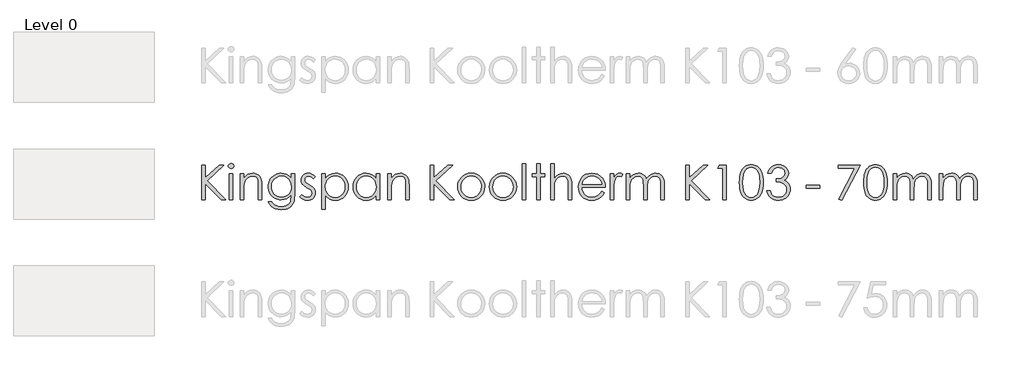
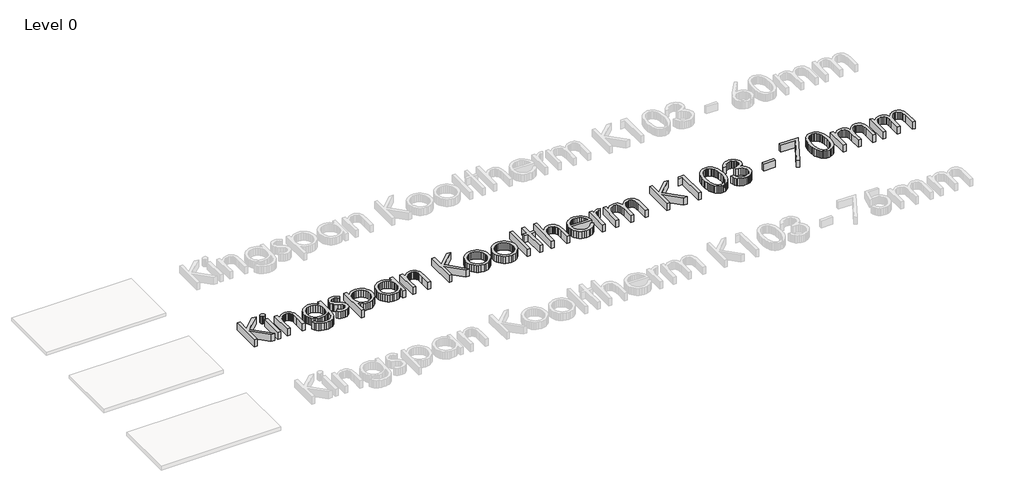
# One storey, part 9 of 13: 1 proxy.
"""IFC4 building model written with IfcOpenShell, lengths in millimetres."""

import ifcopenshell
import ifcopenshell.guid

model = None  # the IFC model being written
_history = None  # IfcOwnerHistory: only IFC2X3 demands one
_inside = {}  # id of a spatial element -> (the spatial element, [elements in it])
_under = {}  # id of a project, library or spatial element -> (it, [spatial elements below it])
_declared = {}  # id of a project -> (the project, [libraries it declares])
_typed = {}  # id of a type object -> (the type object, [elements of that type])
_made_of = {}  # id of a material, layer set ... -> (it, [elements and type objects made of it])


def new_model(schema):
    """Start an empty IFC model of exactly this schema.

    Asked for "IFC4X3", IfcOpenShell would pick the latest addendum, in which some entities
    have other attributes; the version numbers below select the first issue.
    IFC2X3 requires an IfcOwnerHistory on every rooted entity: one is made here for all.
    """
    global model, _history
    if schema == "IFC4X3":
        model = ifcopenshell.file(schema_version=(4, 3, 0, 0))
    else:
        model = ifcopenshell.file(schema=schema)
    _inside.clear()
    _under.clear()
    _declared.clear()
    _typed.clear()
    _made_of.clear()
    _history = None
    if model.schema == "IFC2X3":
        org = make("IfcOrganization", Name="unknown")
        user = make(
            "IfcPersonAndOrganization",
            ThePerson=make("IfcPerson", FamilyName="unknown"),
            TheOrganization=org,
        )
        app = make(
            "IfcApplication",
            ApplicationDeveloper=org,
            Version="unknown",
            ApplicationFullName="unknown",
            ApplicationIdentifier="unknown",
        )
        _history = make(
            "IfcOwnerHistory",
            OwningUser=user,
            OwningApplication=app,
            ChangeAction="ADDED",
            CreationDate=0,
        )
    return model


def make(cls, **values):
    """One entity of the class cls with the attributes given. An attribute that is None is left unset."""
    return model.create_entity(
        cls, **{name: value for name, value in values.items() if value is not None}
    )


def rooted(cls, **values):
    """An entity with a GlobalId (a new one), such as an element, a storey or a relation."""
    return make(cls, GlobalId=ifcopenshell.guid.new(), OwnerHistory=_history, **values)


def si_unit(unit_type, name, prefix=None):
    """IfcSIUnit, for example si_unit("LENGTHUNIT", "METRE", prefix="MILLI")."""
    return make("IfcSIUnit", UnitType=unit_type, Prefix=prefix, Name=name)


def assignment(units):
    """IfcUnitAssignment: the units of a project."""
    return None if units is None else make("IfcUnitAssignment", Units=units)


def point(xyz):
    """IfcCartesianPoint."""
    return None if xyz is None else make("IfcCartesianPoint", Coordinates=xyz)


def direction(xyz):
    """IfcDirection."""
    return None if xyz is None else make("IfcDirection", DirectionRatios=xyz)


def frame(location, z_axis=None, x_axis=None):
    """IfcAxis2Placement3D, a coordinate frame: its origin and axes. An axis left out is left unset."""
    return make(
        "IfcAxis2Placement3D",
        Location=point(location),
        Axis=direction(z_axis),
        RefDirection=direction(x_axis),
    )


def origin():
    """The frame at (0, 0, 0) with its axes left unset."""
    return frame((0.0, 0.0, 0.0))


def origin_with_axes():
    """The frame at (0, 0, 0) with the z axis (0, 0, 1) and the x axis (1, 0, 0) written out."""
    return frame((0.0, 0.0, 0.0), z_axis=(0.0, 0.0, 1.0), x_axis=(1.0, 0.0, 0.0))


def place(relative_to, where):
    """IfcLocalPlacement: puts the frame where relative to a parent placement (None: the world)."""
    return make(
        "IfcLocalPlacement", PlacementRelTo=relative_to, RelativePlacement=where
    )


def context(
    kind, dimensions, precision=None, world=None, true_north=None, identifier=None
):
    """IfcGeometricRepresentationContext, for example the 3D "Model" context."""
    return make(
        "IfcGeometricRepresentationContext",
        ContextIdentifier=identifier,
        ContextType=kind,
        CoordinateSpaceDimension=dimensions,
        Precision=precision,
        WorldCoordinateSystem=world,
        TrueNorth=true_north,
    )


def project(units=None, contexts=None):
    """IfcProject with its units and contexts."""
    return rooted(
        "IfcProject",
        Name="project",
        RepresentationContexts=contexts,
        UnitsInContext=assignment(units),
    )


def spatial(cls, under=None, at=None, **own):
    """A site, building, storey or space (cls), placed at a placement, below another one or the project."""
    s = rooted(cls, ObjectPlacement=at, **own)
    if under is not None:
        _under.setdefault(under.id(), (under, []))[1].append(s)
    return s


def polyline(points):
    """IfcPolyline through the points."""
    return make("IfcPolyline", Points=[point(p) for p in points])


def outline(outer, holes=None, kind="AREA"):
    """IfcArbitraryClosedProfileDef: a profile drawn as a closed curve; with holes, ...WithVoids."""
    if holes is None:
        return make("IfcArbitraryClosedProfileDef", ProfileType=kind, OuterCurve=outer)
    return make(
        "IfcArbitraryProfileDefWithVoids",
        ProfileType=kind,
        OuterCurve=outer,
        InnerCurves=holes,
    )


def extrude(swept, where, along, depth):
    """IfcExtrudedAreaSolid: the profile swept, set in the frame where, extruded along a direction by depth."""
    return make(
        "IfcExtrudedAreaSolid",
        SweptArea=swept,
        Position=where,
        ExtrudedDirection=direction(along),
        Depth=depth,
    )


def shape(context_of_items, identifier, shape_type, items):
    """IfcShapeRepresentation: the items that make up one representation, for example the "Body"."""
    return make(
        "IfcShapeRepresentation",
        ContextOfItems=context_of_items,
        RepresentationIdentifier=identifier,
        RepresentationType=shape_type,
        Items=items,
    )


def made_of(thing, what):
    """Note that an element or type object is made of a material, layer set ...; save() writes the relation."""
    if what is not None:
        _made_of.setdefault(what.id(), (what, []))[1].append(thing)
    return thing


def element(
    cls,
    number,
    at=None,
    inside=None,
    cuts=None,
    type_object=None,
    material=None,
    context=None,
    identifier="Body",
    shape_type=None,
    held_by="IfcProductDefinitionShape",
    body=None,
    shapes=None,
    **own,
):
    """One element of the class cls, such as IfcWall. Its Tag is "e" and its number.

    at: its placement. inside: the storey or other place that contains it. cuts: it is an
    opening in that element (IfcRelVoidsElement). A single representation is given by context,
    identifier, shape_type and body (its items); several are given by shapes. held_by: the class
    of the entity that holds the representations. save() writes the other relations.
    """
    e = rooted(cls, Tag="e%d" % number, ObjectPlacement=at, **own)
    if body is not None:
        shapes = [shape(context, identifier, shape_type, body)]
    if shapes is not None:
        e.Representation = make(held_by, Representations=shapes)
    if inside is not None:
        _inside.setdefault(inside.id(), (inside, []))[1].append(e)
    if cuts is not None:
        rooted(
            "IfcRelVoidsElement", RelatingBuildingElement=cuts, RelatedOpeningElement=e
        )
    if type_object is not None:
        _typed.setdefault(type_object.id(), (type_object, []))[1].append(e)
    return made_of(e, material)


def aggregate(whole, parts):
    """IfcRelAggregates: a whole, such as a stair, and the parts it consists of."""
    return rooted("IfcRelAggregates", RelatingObject=whole, RelatedObjects=parts)


def save(model, path):
    """Write the relations noted so far, then the file.

    IfcRelAggregates (storeys below a building ...), IfcRelContainedInSpatialStructure (elements
    in a storey), IfcRelDefinesByType, IfcRelAssociatesMaterial and IfcRelDeclares: one each for
    every whole, place, type object, material and project.
    """
    for whole, parts in _under.values():
        aggregate(whole, parts)
    for where, things in _inside.values():
        rooted(
            "IfcRelContainedInSpatialStructure",
            RelatedElements=things,
            RelatingStructure=where,
        )
    for kind, things in _typed.values():
        rooted("IfcRelDefinesByType", RelatedObjects=things, RelatingType=kind)
    for what, things in _made_of.values():
        rooted("IfcRelAssociatesMaterial", RelatedObjects=things, RelatingMaterial=what)
    for by, libraries in _declared.values():
        rooted("IfcRelDeclares", RelatingContext=by, RelatedDefinitions=libraries)
    model.write(path)


model = new_model("IFC4")

# Units and contexts
model_context = context("Model", 3, world=origin())
ifc_project = project(units=[si_unit("LENGTHUNIT", "METRE", prefix="MILLI")], contexts=[model_context])

# Site, building, storey
site = spatial("IfcSite", under=ifc_project)
building = spatial("IfcBuilding", under=site)
storey = spatial("IfcBuildingStorey", under=building, Name="Level 0", Elevation=0.0)

# Proxy
placement = place(None, origin())
element("IfcBuildingElementProxy", 1, Name="600mm KI_CenturyGothic", ObjectType="600mm KI_CenturyGothic", at=placement, inside=storey, context=model_context, shape_type="SweptSolid", body=[
    extrude(outline(polyline([(-3852.2663848, -2099.1034017), (-3792.944575, -2099.1034017), (-3792.944575, -2318.316027), (-3555.1938841, -2099.1034017), (-3471.6181051, -2099.1034017), (-3760.9664119, -2366.0515459), (-3441.9572002, -2692.3214999), (-3520.8984627, -2692.3214999), (-3792.944575, -2414.0960325), (-3792.944575, -2692.3214999), (-3852.2663848, -2692.3214999), (-3852.2663848, -2099.1034017)])), origin_with_axes(), (0.0, 0.0, 1.0), 150.0),
    extrude(outline(polyline([(-3348.1854852, -2069.4424967), (-3329.145347, -2072.7252792), (-3313.1176445, -2082.5736265), (-3302.226531, -2097.0178693), (-3298.5961598, -2114.088338), (-3302.226531, -2130.9270809), (-3313.1176445, -2145.2940817), (-3329.145347, -2155.142429), (-3348.1854852, -2158.4252115), (-3366.9938975, -2155.142429), (-3382.9443581, -2145.2940817), (-3393.8354717, -2130.9270809), (-3397.4658428, -2114.088338), (-3393.8354717, -2097.0178693), (-3382.9443581, -2082.5736265), (-3366.9938975, -2072.7252792), (-3348.1854852, -2069.4424967)])), origin_with_axes(), (0.0, 0.0, 1.0), 150.0),
    extrude(outline(polyline([(-3377.6919062, -2247.4079262), (-3318.3700964, -2247.4079262), (-3318.3700964, -2692.3214999), (-3377.6919062, -2692.3214999), (-3377.6919062, -2247.4079262)])), origin_with_axes(), (0.0, 0.0, 1.0), 150.0),
    extrude(outline(polyline([(-3189.8395084, -2247.4079262), (-3130.5176986, -2247.4079262), (-3130.5176986, -2326.5036726), (-3096.9946967, -2286.9944204), (-3060.0730495, -2259.303185), (-3019.7141359, -2242.9665147), (-2975.879335, -2237.5209579), (-2953.4357238, -2239.0995901), (-2932.2955704, -2243.8354865), (-2912.4588747, -2251.7286472), (-2893.9256368, -2262.7790723), (-2877.212412, -2276.5039994), (-2862.835756, -2292.4206667), (-2841.0921499, -2330.8292213), (-2833.6238199, -2355.2087086), (-2828.2892984, -2385.5551357), (-2824.0216812, -2464.1488095), (-2824.0216812, -2692.3214999), (-2883.343491, -2692.3214999), (-2883.343491, -2479.1337458), (-2883.343491, -2376.092998), (-2884.7290183, -2355.2956057), (-2889.8125035, -2337.2403023), (-2898.2849788, -2321.9270877), (-2910.1464442, -2309.355962), (-2924.7403432, -2299.5558909), (-2941.4101193, -2292.5558401), (-2980.977303, -2286.9557994), (-3005.3471351, -2289.1137461), (-3028.4038541, -2295.5875862), (-3050.1474602, -2306.3773197), (-3070.5779533, -2321.4829466), (-3088.6622225, -2339.7651482), (-3103.3671568, -2360.084606), (-3114.6927562, -2382.44132), (-3122.6390208, -2406.8352901), (-3128.5480292, -2453.9142525), (-3130.5176986, -2528.4141035), (-3130.5176986, -2692.3214999), (-3189.8395084, -2692.3214999), (-3189.8395084, -2247.4079262)])), origin_with_axes(), (0.0, 0.0, 1.0), 150.0),
    extrude(outline(polyline([(-2319.7862977, -2247.4079262), (-2260.4644879, -2247.4079262), (-2260.4644879, -2598.395301), (-2264.5196897, -2678.6496765), (-2269.588692, -2709.4499001), (-2276.6852953, -2734.0321474), (-2289.9371156, -2762.6454585), (-2307.2924139, -2787.7732271), (-2328.7511904, -2809.4154531), (-2354.3134448, -2827.5721366), (-2383.3226209, -2841.9343098), (-2415.122162, -2852.1930049), (-2449.7120682, -2858.348222), (-2487.0923395, -2860.3999611), (-2541.0458345, -2856.3833802), (-2589.206184, -2844.3336376), (-2630.260275, -2825.5059147), (-2662.8949946, -2801.1553932), (-2690.2000204, -2767.8061856), (-2715.2650299, -2721.9824048), (-2655.94322, -2721.9824048), (-2642.4355358, -2743.151524), (-2627.0933555, -2761.3951046), (-2609.9166791, -2776.7131468), (-2590.9055067, -2789.1056506), (-2569.7894914, -2798.6691682), (-2546.2982864, -2805.5002523), (-2492.1903075, -2810.9651195), (-2438.5071593, -2805.6354257), (-2415.083541, -2798.9733084), (-2393.93856, -2789.6463441), (-2359.6624492, -2765.6047903), (-2336.8567664, -2736.1176798), (-2329.3884364, -2717.4782342), (-2324.0539149, -2693.7697863), (-2319.7862977, -2631.1458835), (-2319.7862977, -2608.4367532), (-2354.757586, -2644.2190818), (-2396.6420279, -2670.6165148), (-2443.392712, -2686.8952536), (-2492.9627269, -2692.3214999), (-2522.4063889, -2690.4242447), (-2550.9521133, -2684.7324793), (-2578.5999001, -2675.2462036), (-2605.3497494, -2661.9654175), (-2630.1540674, -2645.4742634), (-2651.9652601, -2626.3568832), (-2670.7833277, -2604.6132772), (-2686.6082702, -2580.2434451), (-2699.1456025, -2553.9280817), (-2708.1008399, -2526.3478816), (-2713.4739824, -2497.5028447), (-2715.2650299, -2467.392971), (-2713.3967404, -2437.1044753), (-2707.7918722, -2407.8780563), (-2698.4504251, -2379.713714), (-2685.3723991, -2352.6114483), (-2668.9971079, -2327.4257483), (-2649.7638648, -2305.0111029), (-2627.67267, -2285.367512), (-2602.7235235, -2268.4949758), (-2575.9833294, -2254.943843), (-2548.5189922, -2245.2644624), (-2520.3305117, -2239.456834), (-2491.4178881, -2237.5209579), (-2444.5320306, -2242.4644421), (-2400.8903346, -2257.2948945), (-2359.6045177, -2283.8661218), (-2319.7862977, -2324.0319306), (-2319.7862977, -2247.4079262)]), holes=[polyline([(-2484.1571458, -2286.9557994), (-2529.0154023, -2292.9806707), (-2570.5908765, -2311.0552847), (-2606.2187212, -2339.7699758), (-2633.2340897, -2377.7150788), (-2650.2659375, -2421.9940208), (-2655.94322, -2469.7102292), (-2653.0080263, -2505.6229036), (-2644.2024452, -2538.2817613), (-2629.5264766, -2567.6868023), (-2608.9801206, -2593.8380266), (-2583.7606272, -2615.296803), (-2555.0652466, -2630.6245004), (-2522.8939786, -2639.8211189), (-2487.2468234, -2642.8866584), (-2451.3244937, -2639.845257), (-2419.1001219, -2630.7210528), (-2390.573708, -2615.5140459), (-2365.7452519, -2594.2242363), (-2345.6382095, -2567.9812872), (-2331.2760363, -2537.9148621), (-2322.6587323, -2504.024961), (-2319.7862977, -2466.3115838), (-2325.0773706, -2417.6105407), (-2340.9505892, -2374.3936754), (-2366.4983608, -2338.1672056), (-2400.8130926, -2310.4373492), (-2440.9982119, -2292.8261869), (-2484.1571458, -2286.9557994)])]), origin_with_axes(), (0.0, 0.0, 1.0), 150.0),
    extrude(outline(polyline([(-1904.5336289, -2298.6965743), (-1940.9918246, -2336.390641), (-1962.9575012, -2314.7628978), (-1984.6721416, -2299.3145098), (-2006.1357456, -2290.045477), (-2027.3483133, -2286.9557994), (-2052.181597, -2291.6289368), (-2073.2300256, -2305.6483489), (-2087.5970264, -2325.8857371), (-2092.3860267, -2349.212803), (-2088.4466878, -2370.7633042), (-2076.628671, -2391.2324183), (-2052.0657341, -2413.400855), (-2010.2006027, -2439.122421), (-1958.3326401, -2471.9888664), (-1939.8428507, -2487.8138088), (-1926.315856, -2503.2332311), (-1909.9791857, -2535.9065716), (-1904.5336289, -2572.4420092), (-1906.9474396, -2598.5884059), (-1914.1888714, -2622.6492701), (-1926.2579245, -2644.624602), (-1943.1545989, -2664.5144015), (-1963.6719892, -2681.0055557), (-1986.6031901, -2692.7849515), (-2011.9482016, -2699.852589), (-2039.7070237, -2702.2084682), (-2077.4397114, -2698.3270607), (-2113.3958344, -2686.6828383), (-2145.4512394, -2668.2027042), (-2171.4817731, -2643.8135617), (-2135.7959969, -2603.3387852), (-2114.0041146, -2624.9665283), (-2091.5749863, -2640.4149163), (-2068.5086121, -2649.6839491), (-2044.8049918, -2652.7736267), (-2013.637869, -2647.1349651), (-1987.4914724, -2630.2189802), (-1969.7644472, -2605.6560434), (-1963.8554388, -2577.0765256), (-1967.7561567, -2553.2860081), (-1979.4583106, -2532.2762005), (-2005.0253927, -2510.5712154), (-2050.2119275, -2483.7682622), (-2099.762632, -2453.1032121), (-2117.441381, -2437.9444814), (-2130.3890611, -2422.9016136), (-2146.3781427, -2390.7689666), (-2151.7078365, -2354.310771), (-2149.5305794, -2330.2643896), (-2142.9988078, -2308.3325063), (-2132.1125219, -2288.5151211), (-2116.8717217, -2270.812234), (-2098.309518, -2256.2473007), (-2077.4590218, -2245.8437769), (-2054.3202332, -2239.6016627), (-2028.8931521, -2237.5209579), (-1997.9481, -2241.3444339), (-1966.9064954, -2252.814862), (-1935.7683384, -2271.9322421), (-1904.5336289, -2298.6965743)])), origin_with_axes(), (0.0, 0.0, 1.0), 150.0),
    extrude(outline(polyline([(-1795.7769776, -2247.4079262), (-1736.4551678, -2247.4079262), (-1736.4551678, -2328.5119631), (-1700.9238754, -2288.2689124), (-1660.4490989, -2259.9211205), (-1614.9922173, -2243.1209986), (-1564.5146096, -2237.5209579), (-1520.0618732, -2241.7596094), (-1478.9305402, -2254.4755637), (-1441.1206107, -2275.668821), (-1406.6320845, -2305.3393811), (-1377.9077381, -2340.9768811), (-1357.3903478, -2380.070958), (-1345.0799137, -2422.6216116), (-1340.9764356, -2468.628842), (-1345.0412927, -2515.5291824), (-1357.235864, -2558.7508754), (-1377.5601494, -2598.293921), (-1406.014149, -2634.1583192), (-1440.2130179, -2663.9302594), (-1477.7719111, -2685.1959309), (-1518.6908288, -2697.9553339), (-1562.9697708, -2702.2084682), (-1612.6170277, -2696.743601), (-1658.0545988, -2680.3489992), (-1699.3211052, -2653.1019049), (-1736.4551678, -2615.07956), (-1736.4551678, -2850.5129928), (-1795.7769776, -2850.5129928), (-1795.7769776, -2247.4079262)]), holes=[polyline([(-1568.5311905, -2286.9557994), (-1602.5852307, -2290.2530647), (-1633.8392507, -2300.1448607), (-1662.2932503, -2316.6311872), (-1687.9472295, -2339.7120444), (-1709.1694525, -2367.6977647), (-1724.3281832, -2398.8986808), (-1733.4234216, -2433.3147926), (-1736.4551678, -2470.9461002), (-1731.048232, -2519.8016272), (-1714.8274246, -2563.4819442), (-1688.5265441, -2600.3263495), (-1652.8793888, -2628.6741414), (-1611.4390881, -2646.7487554), (-1567.7587711, -2652.7736267), (-1525.0632888, -2646.7101344), (-1485.0326535, -2628.5196576), (-1450.2544701, -2599.4187567), (-1423.3163435, -2560.6239924), (-1406.05277, -2515.9588407), (-1400.2982454, -2469.2467775), (-1405.9948385, -2422.3029886), (-1423.0846177, -2377.8695627), (-1449.8103289, -2339.5189395), (-1484.414718, -2310.8235589), (-1524.7157001, -2292.9227393), (-1568.5311905, -2286.9557994)])]), origin_with_axes(), (0.0, 0.0, 1.0), 150.0),
    extrude(outline(polyline([(-807.0801472, -2247.4079262), (-807.0801472, -2692.3214999), (-866.401957, -2692.3214999), (-866.401957, -2616.4699149), (-903.4780882, -2654.3184655), (-944.8797679, -2681.0441767), (-990.4525125, -2696.9173953), (-1040.0418379, -2702.2084682), (-1084.3159523, -2697.9553339), (-1125.2203871, -2685.1959309), (-1162.7551422, -2663.9302594), (-1196.9202178, -2634.1583192), (-1225.340424, -2598.293921), (-1245.6405713, -2558.7508754), (-1257.8206597, -2515.5291824), (-1261.8806892, -2468.628842), (-1257.7820388, -2422.6216116), (-1245.4860875, -2380.070958), (-1224.9928353, -2340.9768811), (-1196.3022822, -2305.3393811), (-1161.8475494, -2275.668821), (-1124.061758, -2254.4755637), (-1082.9449079, -2241.7596094), (-1038.4969991, -2237.5209579), (-987.7490446, -2243.1209986), (-942.0990581, -2259.9211205), (-921.2051134, -2272.6081091), (-901.6242816, -2288.2689124), (-866.401957, -2328.5119631), (-866.401957, -2247.4079262), (-807.0801472, -2247.4079262)]), holes=[polyline([(-1034.3259343, -2286.9557994), (-1078.1414247, -2292.9227393), (-1118.4424068, -2310.8235589), (-1153.0467959, -2339.5189395), (-1179.7725071, -2377.8695627), (-1196.8622863, -2422.3029886), (-1202.5588794, -2469.2467775), (-1196.8043548, -2515.9588407), (-1179.5407813, -2560.6239924), (-1152.6026548, -2599.4187567), (-1117.8244713, -2628.5196576), (-1077.6779731, -2646.7101344), (-1034.6349021, -2652.7736267), (-991.0125165, -2646.7487554), (-949.7460102, -2628.6741414), (-914.2726493, -2600.3263495), (-888.0297002, -2563.4819442), (-871.8088928, -2519.8016272), (-866.401957, -2470.9461002), (-869.4337032, -2433.3147926), (-878.5289416, -2398.8986808), (-893.6876723, -2367.6977647), (-914.9098953, -2339.7120444), (-940.5638746, -2316.6311872), (-969.0178742, -2300.1448607), (-1000.2718941, -2290.2530647), (-1034.3259343, -2286.9557994)])]), origin_with_axes(), (0.0, 0.0, 1.0), 150.0),
    extrude(outline(polyline([(-668.662591, -2247.4079262), (-609.3407811, -2247.4079262), (-609.3407811, -2326.5036726), (-575.8177792, -2286.9944204), (-538.896132, -2259.303185), (-498.5372184, -2242.9665147), (-454.7024175, -2237.5209579), (-432.2588064, -2239.0995901), (-411.1186529, -2243.8354865), (-391.2819572, -2251.7286472), (-372.7487193, -2262.7790723), (-356.0354946, -2276.5039994), (-341.6588385, -2292.4206667), (-319.9152324, -2330.8292213), (-312.4469024, -2355.2087086), (-307.1123809, -2385.5551357), (-302.8447637, -2464.1488095), (-302.8447637, -2692.3214999), (-362.1665735, -2692.3214999), (-362.1665735, -2479.1337458), (-362.1665735, -2376.092998), (-363.5521008, -2355.2956057), (-368.635586, -2337.2403023), (-377.1080613, -2321.9270877), (-388.9695267, -2309.355962), (-403.5634257, -2299.5558909), (-420.2332018, -2292.5558401), (-459.8003855, -2286.9557994), (-484.1702176, -2289.1137461), (-507.2269366, -2295.5875862), (-528.9705427, -2306.3773197), (-549.4010358, -2321.4829466), (-567.485305, -2339.7651482), (-582.1902393, -2360.084606), (-593.5158387, -2382.44132), (-601.4621033, -2406.8352901), (-607.3711117, -2453.9142525), (-609.3407811, -2528.4141035), (-609.3407811, -2692.3214999), (-668.662591, -2692.3214999), (-668.662591, -2247.4079262)])), origin_with_axes(), (0.0, 0.0, 1.0), 150.0),
    extrude(outline(polyline([(62.9730635, -2099.1034017), (122.2948734, -2099.1034017), (122.2948734, -2318.316027), (360.0455643, -2099.1034017), (443.6213432, -2099.1034017), (154.2730365, -2366.0515459), (473.2822481, -2692.3214999), (394.3409856, -2692.3214999), (122.2948734, -2414.0960325), (122.2948734, -2692.3214999), (62.9730635, -2692.3214999), (62.9730635, -2099.1034017)])), origin_with_axes(), (0.0, 0.0, 1.0), 150.0),
    extrude(outline(polyline([(760.1588128, -2237.5209579), (809.4681362, -2242.1458191), (854.3553585, -2256.0204025), (894.8204798, -2279.1447083), (930.8635, -2311.5187363), (957.7630055, -2346.7507161), (976.9769381, -2385.091684), (988.5052976, -2426.54164), (992.3480841, -2471.1005841), (988.283227, -2515.9153921), (976.0886558, -2557.8239721), (955.7643703, -2596.8263241), (927.3103707, -2632.9224481), (892.4742558, -2663.2350819), (853.0036246, -2684.8869632), (808.8984769, -2697.8780919), (760.1588128, -2702.2084682), (711.2839754, -2697.8780919), (667.0822753, -2684.8869632), (627.5537126, -2663.2350819), (592.6982872, -2632.9224481), (564.2442876, -2596.8263241), (543.9200022, -2557.8239721), (531.7254309, -2515.9153921), (527.6605738, -2471.1005841), (531.5033603, -2426.7347449), (543.0317198, -2385.4006518), (562.2456524, -2347.0983049), (589.145158, -2311.8277041), (625.2074886, -2279.3185026), (665.7305413, -2256.0976445), (710.7143161, -2242.1651295), (760.1588128, -2237.5209579)]), holes=[polyline([(760.004329, -2286.9557994), (725.7282181, -2290.3303067), (693.9624704, -2300.4538284), (664.7070856, -2317.3263647), (637.962064, -2340.9479154), (615.6584538, -2369.3584664), (599.7273037, -2400.5980035), (590.1686137, -2434.6665266), (586.9823836, -2471.5640357), (592.7948396, -2519.2995546), (610.2322075, -2563.6364281), (637.5758543, -2601.4270471), (673.1071466, -2629.5238028), (714.6439998, -2646.9611707), (760.004329, -2652.7736267), (805.3646581, -2646.9611707), (846.9015113, -2629.5238028), (882.4328037, -2601.4270471), (909.7764504, -2563.6364281), (927.2138183, -2519.2995546), (933.0262743, -2471.5640357), (929.8255614, -2434.6665266), (920.2234227, -2400.5980035), (904.2198583, -2369.3584664), (881.8148681, -2340.9479154), (854.9974321, -2317.3263647), (825.7565303, -2300.4538284), (794.0921625, -2290.3303067), (760.004329, -2286.9557994)])]), origin_with_axes(), (0.0, 0.0, 1.0), 150.0),
    extrude(outline(polyline([(1303.9420695, -2237.5209579), (1353.2513929, -2242.1458191), (1398.1386152, -2256.0204025), (1438.6037365, -2279.1447083), (1474.6467567, -2311.5187363), (1501.5462622, -2346.7507161), (1520.7601948, -2385.091684), (1532.2885543, -2426.54164), (1536.1313408, -2471.1005841), (1532.0664837, -2515.9153921), (1519.8719125, -2557.8239721), (1499.547627, -2596.8263241), (1471.0936274, -2632.9224481), (1436.2575126, -2663.2350819), (1396.7868813, -2684.8869632), (1352.6817336, -2697.8780919), (1303.9420695, -2702.2084682), (1255.0672321, -2697.8780919), (1210.865532, -2684.8869632), (1171.3369693, -2663.2350819), (1136.4815439, -2632.9224481), (1108.0275443, -2596.8263241), (1087.7032589, -2557.8239721), (1075.5086876, -2515.9153921), (1071.4438305, -2471.1005841), (1075.286617, -2426.7347449), (1086.8149766, -2385.4006518), (1106.0289091, -2347.0983049), (1132.9284147, -2311.8277041), (1168.9907453, -2279.3185026), (1209.5137981, -2256.0976445), (1254.4975728, -2242.1651295), (1303.9420695, -2237.5209579)]), holes=[polyline([(1303.7875857, -2286.9557994), (1269.5114748, -2290.3303067), (1237.7457271, -2300.4538284), (1208.4903423, -2317.3263647), (1181.7453207, -2340.9479154), (1159.4417105, -2369.3584664), (1143.5105604, -2400.5980035), (1133.9518704, -2434.6665266), (1130.7656404, -2471.5640357), (1136.5780963, -2519.2995546), (1154.0154643, -2563.6364281), (1181.359111, -2601.4270471), (1216.8904033, -2629.5238028), (1258.4272565, -2646.9611707), (1303.7875857, -2652.7736267), (1349.1479149, -2646.9611707), (1390.684768, -2629.5238028), (1426.2160604, -2601.4270471), (1453.5597071, -2563.6364281), (1470.997075, -2519.2995546), (1476.809531, -2471.5640357), (1473.6088181, -2434.6665266), (1464.0066795, -2400.5980035), (1448.003115, -2369.3584664), (1425.5981249, -2340.9479154), (1398.7806889, -2317.3263647), (1369.539787, -2300.4538284), (1337.8754193, -2290.3303067), (1303.7875857, -2286.9557994)])]), origin_with_axes(), (0.0, 0.0, 1.0), 150.0),
    extrude(outline(polyline([(1635.0010238, -2079.3294651), (1694.3228337, -2079.3294651), (1694.3228337, -2692.3214999), (1635.0010238, -2692.3214999), (1635.0010238, -2079.3294651)])), origin_with_axes(), (0.0, 0.0, 1.0), 150.0),
    extrude(outline(polyline([(1882.1752314, -2079.3294651), (1941.4970413, -2079.3294651), (1941.4970413, -2247.4079262), (2020.5927877, -2247.4079262), (2020.5927877, -2296.8427677), (1941.4970413, -2296.8427677), (1941.4970413, -2692.3214999), (1882.1752314, -2692.3214999), (1882.1752314, -2296.8427677), (1803.079485, -2296.8427677), (1803.079485, -2247.4079262), (1882.1752314, -2247.4079262), (1882.1752314, -2079.3294651)])), origin_with_axes(), (0.0, 0.0, 1.0), 150.0),
    extrude(outline(polyline([(2119.4624707, -2079.3294651), (2178.7842806, -2079.3294651), (2178.7842806, -2328.0485114), (2212.5583188, -2288.3461544), (2249.6151394, -2260.0756044), (2289.9161216, -2243.1596195), (2333.4226442, -2237.5209579), (2355.8662553, -2239.0995901), (2377.0064088, -2243.8354865), (2396.8431044, -2251.7286472), (2415.3763424, -2262.7790723), (2432.0895671, -2276.4895166), (2446.4662232, -2292.3627352), (2468.2098293, -2330.5974955), (2475.6781593, -2354.9045684), (2481.0126808, -2385.2654784), (2485.280298, -2464.1488095), (2485.280298, -2692.3214999), (2425.9584882, -2692.3214999), (2425.9584882, -2479.1337458), (2424.5681332, -2414.752589), (2420.3970685, -2376.092998), (2406.879729, -2337.2403023), (2397.1665551, -2321.9270877), (2385.4837117, -2309.355962), (2371.840854, -2299.5558909), (2356.2476374, -2292.5558401), (2319.2101273, -2286.9557994), (2296.3416854, -2289.1137461), (2274.6994594, -2295.5875862), (2254.2834492, -2306.3773197), (2235.0936547, -2321.4829466), (2218.1052556, -2339.7651482), (2204.2934312, -2360.084606), (2193.6581816, -2382.44132), (2186.1995068, -2406.8352901), (2180.6380871, -2453.6825267), (2178.7842806, -2528.4141035), (2178.7842806, -2692.3214999), (2119.4624707, -2692.3214999), (2119.4624707, -2079.3294651)])), origin_with_axes(), (0.0, 0.0, 1.0), 150.0),
    extrude(outline(polyline([(2991.0605203, -2544.0169753), (3038.950523, -2569.1978477), (3013.3255094, -2611.0822896), (2984.0315038, -2644.0452875), (2950.952643, -2669.1296074), (2913.9730643, -2687.3780157), (2872.4941426, -2698.5008551), (2825.9172528, -2702.2084682), (2774.4258447, -2697.7767119), (2728.8627554, -2684.481443), (2689.227985, -2662.3226615), (2655.5215335, -2631.3003674), (2628.6220279, -2594.6973431), (2609.4080954, -2555.7963712), (2597.8797358, -2514.5974515), (2594.0369493, -2471.1005841), (2597.3197318, -2430.2202874), (2607.1680791, -2391.618628), (2623.5819913, -2355.2956057), (2646.5614684, -2321.2512207), (2682.7493173, -2284.6192308), (2724.5758277, -2258.4535236), (2772.0409998, -2242.7540993), (2825.1448334, -2237.5209579), (2879.7935059, -2242.8892727), (2928.6490329, -2258.9942172), (2971.7114143, -2285.8357913), (3008.9806503, -2323.4139951), (3030.4539096, -2355.585263), (3045.9022976, -2391.541386), (3055.3258143, -2431.2823641), (3058.7244596, -2474.8081972), (2653.3587591, -2474.8081972), (2657.095338, -2512.0629503), (2666.6057518, -2545.8128504), (2681.8900007, -2576.0578975), (2702.9480845, -2602.7980916), (2728.3124066, -2624.6623882), (2756.5153699, -2640.2797429), (2787.5569744, -2649.6501557), (2821.4372203, -2652.7736267), (2854.9602222, -2649.761191), (2887.5563208, -2640.7238841), (2917.2944677, -2626.6851615), (2942.2436143, -2608.668479), (2965.725164, -2582.5027719), (2991.0605203, -2544.0169753)]), holes=[polyline([(2999.4026498, -2425.3733557), (2984.9777175, -2382.8516678), (2965.1844704, -2349.8307385), (2939.0766947, -2324.3022774), (2905.7081767, -2304.257994), (2867.7630738, -2291.2813481), (2827.9255433, -2286.9557994), (2795.503239, -2289.6689226), (2765.4368139, -2297.808292), (2737.726268, -2311.3739077), (2712.3716012, -2330.3657696), (2695.8321708, -2348.179692), (2681.4362043, -2369.9522638), (2669.1837016, -2395.683485), (2659.0746627, -2425.3733557), (2999.4026498, -2425.3733557)])]), origin_with_axes(), (0.0, 0.0, 1.0), 150.0),
    extrude(outline(polyline([(3137.820206, -2247.4079262), (3197.1420159, -2247.4079262), (3197.1420159, -2311.8277041), (3222.6897875, -2278.7874643), (3249.589293, -2255.6728138), (3277.7632906, -2242.0589219), (3307.1345382, -2237.5209579), (3330.4616041, -2241.305813), (3355.3335087, -2252.6603781), (3325.8270877, -2294.6799934), (3297.2475699, -2286.9557994), (3270.8308265, -2292.9034288), (3245.3409863, -2310.7463169), (3223.2884125, -2341.1023993), (3207.183468, -2384.5896114), (3199.6523789, -2442.7141712), (3197.1420159, -2540.1548783), (3197.1420159, -2692.3214999), (3137.820206, -2692.3214999), (3137.820206, -2247.4079262)])), origin_with_axes(), (0.0, 0.0, 1.0), 150.0),
    extrude(outline(polyline([(3414.6553185, -2247.4079262), (3473.9771284, -2247.4079262), (3473.9771284, -2323.5684789), (3503.5607913, -2287.0716623), (3533.9168737, -2261.9294109), (3577.3268439, -2243.6230712), (3622.8995884, -2237.5209579), (3653.7384329, -2240.668567), (3682.9165757, -2250.1113941), (3708.6767627, -2264.7873627), (3729.2617397, -2283.634396), (3746.0425511, -2309.0663047), (3760.3902414, -2343.4968994), (3775.16759, -2319.0981017), (3791.6925376, -2297.808292), (3809.965084, -2279.6274704), (3829.9852293, -2264.5556369), (3851.2798666, -2252.7279648), (3873.375889, -2244.2796277), (3896.2732965, -2239.2106253), (3919.9720892, -2237.5209579), (3962.3006723, -2243.3334139), (3981.4952943, -2250.5989839), (3999.3768034, -2260.7707818), (4015.4914031, -2273.53984), (4029.385297, -2288.5971907), (4050.5109676, -2325.5767694), (4057.8103309, -2348.9521114), (4063.0241619, -2377.5219739), (4067.1952266, -2450.2452603), (4067.1952266, -2692.3214999), (4007.8734168, -2692.3214999), (4007.8734168, -2446.6921311), (4005.4209852, -2385.5744462), (3998.0636904, -2347.1272706), (3984.7587663, -2322.6608861), (3964.4634466, -2303.4855746), (3938.3942919, -2291.0882432), (3907.7678627, -2286.9557994), (3888.1194443, -2288.5054659), (3869.3399976, -2293.1544651), (3834.3880198, -2311.7504621), (3805.6540182, -2340.6968791), (3785.8800816, -2377.9468046), (3779.1889985, -2402.1042213), (3774.4096535, -2433.1747916), (3770.5861775, -2516.0553931), (3770.5861775, -2692.3214999), (3711.2643677, -2692.3214999), (3711.2643677, -2461.9860352), (3708.850557, -2393.530366), (3701.6091252, -2351.2983353), (3688.3621325, -2325.0553863), (3667.9316394, -2304.5669617), (3641.6114484, -2291.35859), (3610.6953619, -2286.9557994), (3573.7544042, -2292.9999812), (3539.2465676, -2311.1325266), (3510.2808401, -2339.499629), (3489.9662099, -2376.2474819), (3477.9743988, -2428.0768236), (3473.9771284, -2501.6883923), (3473.9771284, -2692.3214999), (3414.6553185, -2692.3214999), (3414.6553185, -2247.4079262)])), origin_with_axes(), (0.0, 0.0, 1.0), 150.0),
    extrude(outline(polyline([(4433.0130538, -2099.1034017), (4492.3348637, -2099.1034017), (4492.3348637, -2318.316027), (4730.0855546, -2099.1034017), (4813.6613335, -2099.1034017), (4524.3130268, -2366.0515459), (4843.3222385, -2692.3214999), (4764.3809759, -2692.3214999), (4492.3348637, -2414.0960325), (4492.3348637, -2692.3214999), (4433.0130538, -2692.3214999), (4433.0130538, -2099.1034017)])), origin_with_axes(), (0.0, 0.0, 1.0), 150.0),
    extrude(outline(polyline([(5010.6282802, -2099.1034017), (5125.1008351, -2099.1034017), (5125.1008351, -2692.3214999), (5065.7790253, -2692.3214999), (5065.7790253, -2148.5382432), (4976.7963106, -2148.5382432), (5010.6282802, -2099.1034017)])), origin_with_axes(), (0.0, 0.0, 1.0), 150.0),
    extrude(outline(polyline([(5352.5011061, -2395.8669347), (5354.0797383, -2341.4355052), (5358.8156347, -2293.5406748), (5366.7087954, -2252.1824436), (5377.7592204, -2217.3608116), (5391.6869077, -2187.7192172), (5408.2118552, -2161.9010988), (5427.334063, -2139.9064564), (5449.053531, -2121.73529), (5472.747496, -2107.5082902), (5497.793195, -2097.3461475), (5524.190628, -2091.2488619), (5551.9397949, -2089.2164334), (5580.1427582, -2091.2633448), (5606.974677, -2097.404079), (5632.4355515, -2107.638636), (5656.5253815, -2121.9670159), (5678.7083011, -2140.3843909), (5698.4484443, -2162.8859335), (5715.7458112, -2189.4716437), (5730.6004018, -2220.1415214), (5742.5294539, -2255.6583309), (5751.0502054, -2296.7848363), (5756.1626563, -2343.5210375), (5757.8668066, -2395.8669347), (5756.1867944, -2448.0535203), (5751.1467578, -2494.6207548), (5742.7466968, -2535.5686382), (5730.9866115, -2570.8971704), (5716.2768496, -2601.4222195), (5699.0277589, -2627.9596535), (5679.2393394, -2650.5094723), (5656.9115912, -2669.071676), (5632.6527944, -2683.5690226), (5607.0712295, -2693.9242701), (5580.1668963, -2700.1374187), (5551.9397949, -2702.2084682), (5524.2147661, -2700.2001778), (5497.8897474, -2694.1753064), (5472.964739, -2684.1338543), (5449.4397407, -2670.0758212), (5427.8651013, -2652.0398282), (5408.7911698, -2630.0644964), (5392.2179461, -2604.1498255), (5378.1454301, -2574.2958158), (5366.9260384, -2539.2762513), (5358.9121871, -2497.8649163), (5354.1038764, -2450.0618107), (5352.5011061, -2395.8669347)]), holes=[polyline([(5411.8229159, -2395.7124508), (5416.206396, -2484.038609), (5421.6857461, -2519.0195525), (5429.3568363, -2547.8790723), (5439.1713903, -2572.1185586), (5451.0811319, -2593.2394015), (5465.0860611, -2611.2416011), (5481.1861779, -2626.1251574), (5516.4857445, -2646.1115094), (5534.8886366, -2651.1080973), (5553.7936014, -2652.7736267), (5572.7854634, -2651.1418907), (5591.1400794, -2646.2466828), (5625.9375733, -2626.665851), (5641.694929, -2611.9898824), (5655.4439943, -2594.0697524), (5667.1847692, -2572.9054608), (5676.9172536, -2548.4970078), (5686.3793912, -2515.1381451), (5693.138061, -2478.5544313), (5698.5449967, -2395.7124508), (5693.7173755, -2314.1063413), (5687.682849, -2279.4150551), (5679.2345118, -2248.7982811), (5668.652366, -2222.135329), (5656.2164137, -2199.3055082), (5641.9266548, -2180.3088186), (5625.7830894, -2165.1452603), (5590.7152487, -2145.2747712), (5572.4861509, -2140.307149), (5553.7936014, -2138.6512749), (5534.7776014, -2140.307149), (5516.3505711, -2145.2747712), (5481.2634199, -2165.1452603), (5465.3177869, -2179.9564022), (5451.3900996, -2197.8958428), (5439.480358, -2218.9635819), (5429.5885621, -2243.1596195), (5421.8160919, -2272.0143117), (5416.2643275, -2307.0580143), (5411.8229159, -2395.7124508)])]), origin_with_axes(), (0.0, 0.0, 1.0), 150.0),
    extrude(outline(polyline([(5896.2843628, -2237.5209579), (5836.962553, -2237.5209579), (5847.4867673, -2203.8917483), (5861.9116996, -2174.3756721), (5880.2373498, -2148.9727291), (5902.463718, -2127.6829194), (5927.7314876, -2110.8538318), (5955.181342, -2098.8330549), (5984.8132812, -2091.6205887), (6016.6273051, -2089.2164334), (6062.9145376, -2094.3723328), (6105.9962296, -2109.8400313), (6142.7827034, -2134.0553795), (6170.1842816, -2165.454228), (6187.2161294, -2201.2365567), (6192.8934119, -2238.6023451), (6188.2106193, -2274.037085), (6174.1622415, -2305.5711069), (6150.7482785, -2333.2044109), (6117.9687303, -2356.936997), (6155.3538292, -2378.1012885), (6185.3237018, -2407.2987418), (6201.6120959, -2431.398227), (6213.2466631, -2456.8880672), (6220.2274034, -2483.7682622), (6222.5543169, -2512.0388122), (6220.8549942, -2536.7031292), (6215.7570261, -2560.7977868), (6207.2604128, -2584.3227851), (6195.365154, -2607.2781241), (6180.5347016, -2628.6644862), (6163.232507, -2647.4825538), (6143.4585704, -2663.7323269), (6121.2128917, -2677.4138055), (6097.0361646, -2688.2614704), (6071.4690825, -2696.0098025), (6044.5116454, -2700.6588018), (6016.1638535, -2702.2084682), (5978.6290984, -2699.5387936), (5944.3481599, -2691.52977), (5913.3210382, -2678.1813973), (5885.5477332, -2659.4936754), (5861.6654909, -2635.6403989), (5842.3115573, -2606.795362), (5827.4859325, -2572.9585647), (5817.1886164, -2534.130007), (5876.5104262, -2534.130007), (5895.5505644, -2584.8779615), (5907.6485832, -2604.169136), (5921.4652352, -2619.4051087), (5941.5288291, -2634.0038353), (5964.180028, -2644.4314972), (5989.4188318, -2650.6880943), (6017.2452407, -2652.7736267), (6048.6054683, -2650.2777465), (6076.7215344, -2642.7901059), (6101.593439, -2630.310705), (6123.2211822, -2612.8395438), (6140.7261368, -2592.0180133), (6153.2296758, -2569.487505), (6160.7317992, -2545.2480188), (6163.232507, -2519.2995546), (6158.2310914, -2484.7337865), (6143.2268446, -2452.4080346), (6119.8032263, -2425.0450774), (6089.5436964, -2405.3676933), (6046.6357988, -2392.5648417), (5985.2670776, -2385.8254825), (5985.2670776, -2336.390641), (6027.1515195, -2332.7409593), (6065.0580014, -2321.7919143), (6096.0706403, -2305.2042077), (6117.2735528, -2284.6385412), (6129.4970898, -2261.0797496), (6133.5716021, -2235.5126675), (6131.5102078, -2216.4821845), (6125.326025, -2198.7841251), (6115.0190537, -2182.4184891), (6100.5892938, -2167.3852765), (6083.0119248, -2154.8141508), (6063.2621263, -2145.8347753), (6041.3398983, -2140.44715), (6017.2452407, -2138.6512749), (5979.2228958, -2144.270626), (5946.7233496, -2161.1286794), (5932.4191078, -2174.3322235), (5919.2445295, -2191.4654513), (5896.2843628, -2237.5209579)])), origin_with_axes(), (0.0, 0.0, 1.0), 150.0),
    extrude(outline(polyline([(6499.3894294, -2445.1472923), (6726.7897004, -2445.1472923), (6726.7897004, -2494.5821338), (6499.3894294, -2494.5821338), (6499.3894294, -2445.1472923)])), origin_with_axes(), (0.0, 0.0, 1.0), 150.0),
    extrude(outline(polyline([(7043.1726861, -2099.1034017), (7418.8774816, -2099.1034017), (7102.4944959, -2702.2084682), (7048.5796219, -2679.8083056), (7327.2685409, -2148.5382432), (7043.1726861, -2148.5382432), (7043.1726861, -2099.1034017)])), origin_with_axes(), (0.0, 0.0, 1.0), 150.0),
    extrude(outline(polyline([(7478.1992914, -2395.8669347), (7479.7779236, -2341.4355052), (7484.51382, -2293.5406748), (7492.4069808, -2252.1824436), (7503.4574058, -2217.3608116), (7517.3850931, -2187.7192172), (7533.9100406, -2161.9010988), (7553.0322483, -2139.9064564), (7574.7517163, -2121.73529), (7598.4456813, -2107.5082902), (7623.4913804, -2097.3461475), (7649.8888133, -2091.2488619), (7677.6379802, -2089.2164334), (7705.8409435, -2091.2633448), (7732.6728624, -2097.404079), (7758.1337368, -2107.638636), (7782.2235668, -2121.9670159), (7804.4064864, -2140.3843909), (7824.1466297, -2162.8859335), (7841.4439966, -2189.4716437), (7856.2985871, -2220.1415214), (7868.2276392, -2255.6583309), (7876.7483907, -2296.7848363), (7881.8608416, -2343.5210375), (7883.5649919, -2395.8669347), (7881.8849797, -2448.0535203), (7876.8449431, -2494.6207548), (7868.4448822, -2535.5686382), (7856.6847968, -2570.8971704), (7841.9750349, -2601.4222195), (7824.7259442, -2627.9596535), (7804.9375247, -2650.5094723), (7782.6097765, -2669.071676), (7758.3509797, -2683.5690226), (7732.7694148, -2693.9242701), (7705.8650816, -2700.1374187), (7677.6379802, -2702.2084682), (7649.9129514, -2700.2001778), (7623.5879328, -2694.1753064), (7598.6629243, -2684.1338543), (7575.137926, -2670.0758212), (7553.5632867, -2652.0398282), (7534.4893551, -2630.0644964), (7517.9161314, -2604.1498255), (7503.8436155, -2574.2958158), (7492.6242237, -2539.2762513), (7484.6103725, -2497.8649163), (7479.8020617, -2450.0618107), (7478.1992914, -2395.8669347)]), holes=[polyline([(7537.5211013, -2395.7124508), (7541.9045814, -2484.038609), (7547.3839315, -2519.0195525), (7555.0550216, -2547.8790723), (7564.8695756, -2572.1185586), (7576.7793172, -2593.2394015), (7590.7842464, -2611.2416011), (7606.8843633, -2626.1251574), (7642.1839298, -2646.1115094), (7660.586822, -2651.1080973), (7679.4917868, -2652.7736267), (7698.4836487, -2651.1418907), (7716.8382647, -2646.2466828), (7751.6357586, -2626.665851), (7767.3931143, -2611.9898824), (7781.1421796, -2594.0697524), (7792.8829545, -2572.9054608), (7802.6154389, -2548.4970078), (7812.0775766, -2515.1381451), (7818.8362463, -2478.5544313), (7824.2431821, -2395.7124508), (7819.4155608, -2314.1063413), (7813.3810343, -2279.4150551), (7804.9326971, -2248.7982811), (7794.3505514, -2222.135329), (7781.914599, -2199.3055082), (7767.6248402, -2180.3088186), (7751.4812747, -2165.1452603), (7716.413434, -2145.2747712), (7698.1843362, -2140.307149), (7679.4917868, -2138.6512749), (7660.4757867, -2140.307149), (7642.0487564, -2145.2747712), (7606.9616052, -2165.1452603), (7591.0159723, -2179.9564022), (7577.088285, -2197.8958428), (7565.1785434, -2218.9635819), (7555.2867474, -2243.1596195), (7547.5142772, -2272.0143117), (7541.9625128, -2307.0580143), (7537.5211013, -2395.7124508)])]), origin_with_axes(), (0.0, 0.0, 1.0), 150.0),
    extrude(outline(polyline([(7982.4346749, -2247.4079262), (8041.7564848, -2247.4079262), (8041.7564848, -2323.5684789), (8071.3401477, -2287.0716623), (8101.6962301, -2261.9294109), (8145.1062003, -2243.6230712), (8190.6789448, -2237.5209579), (8221.5177893, -2240.668567), (8250.6959321, -2250.1113941), (8276.4561191, -2264.7873627), (8297.0410961, -2283.634396), (8313.8219075, -2309.0663047), (8328.1695978, -2343.4968994), (8342.9469464, -2319.0981017), (8359.471894, -2297.808292), (8377.7444404, -2279.6274704), (8397.7645856, -2264.5556369), (8419.0592229, -2252.7279648), (8441.1552454, -2244.2796277), (8464.0526529, -2239.2106253), (8487.7514456, -2237.5209579), (8530.0800287, -2243.3334139), (8549.2746507, -2250.5989839), (8567.1561598, -2260.7707818), (8583.2707595, -2273.53984), (8597.1646534, -2288.5971907), (8618.290324, -2325.5767694), (8625.5896873, -2348.9521114), (8630.8035182, -2377.5219739), (8634.974583, -2450.2452603), (8634.974583, -2692.3214999), (8575.6527732, -2692.3214999), (8575.6527732, -2446.6921311), (8573.2003416, -2385.5744462), (8565.8430468, -2347.1272706), (8552.5381227, -2322.6608861), (8532.242803, -2303.4855746), (8506.1736483, -2291.0882432), (8475.5472191, -2286.9557994), (8455.8988006, -2288.5054659), (8437.119354, -2293.1544651), (8402.1673762, -2311.7504621), (8373.4333746, -2340.6968791), (8353.659438, -2377.9468046), (8346.9683549, -2402.1042213), (8342.1890099, -2433.1747916), (8338.3655339, -2516.0553931), (8338.3655339, -2692.3214999), (8279.0437241, -2692.3214999), (8279.0437241, -2461.9860352), (8276.6299134, -2393.530366), (8269.3884816, -2351.2983353), (8256.1414889, -2325.0553863), (8235.7109958, -2304.5669617), (8209.3908048, -2291.35859), (8178.4747183, -2286.9557994), (8141.5337606, -2292.9999812), (8107.025924, -2311.1325266), (8078.0601965, -2339.499629), (8057.7455663, -2376.2474819), (8045.7537552, -2428.0768236), (8041.7564848, -2501.6883923), (8041.7564848, -2692.3214999), (7982.4346749, -2692.3214999), (7982.4346749, -2247.4079262)])), origin_with_axes(), (0.0, 0.0, 1.0), 150.0),
    extrude(outline(polyline([(8773.3921393, -2247.4079262), (8832.7139491, -2247.4079262), (8832.7139491, -2323.5684789), (8862.2976121, -2287.0716623), (8892.6536944, -2261.9294109), (8936.0636646, -2243.6230712), (8981.6364092, -2237.5209579), (9012.4752537, -2240.668567), (9041.6533964, -2250.1113941), (9067.4135834, -2264.7873627), (9087.9985604, -2283.634396), (9104.7793718, -2309.0663047), (9119.1270621, -2343.4968994), (9133.9044108, -2319.0981017), (9150.4293583, -2297.808292), (9168.7019047, -2279.6274704), (9188.72205, -2264.5556369), (9210.0166873, -2252.7279648), (9232.1127097, -2244.2796277), (9255.0101172, -2239.2106253), (9278.7089099, -2237.5209579), (9321.037493, -2243.3334139), (9340.232115, -2250.5989839), (9358.1136241, -2260.7707818), (9374.2282238, -2273.53984), (9388.1221177, -2288.5971907), (9409.2477883, -2325.5767694), (9416.5471516, -2348.9521114), (9421.7609826, -2377.5219739), (9425.9320473, -2450.2452603), (9425.9320473, -2692.3214999), (9366.6102375, -2692.3214999), (9366.6102375, -2446.6921311), (9364.1578059, -2385.5744462), (9356.8005111, -2347.1272706), (9343.495587, -2322.6608861), (9323.2002673, -2303.4855746), (9297.1311126, -2291.0882432), (9266.5046834, -2286.9557994), (9246.856265, -2288.5054659), (9228.0768183, -2293.1544651), (9193.1248405, -2311.7504621), (9164.3908389, -2340.6968791), (9144.6169023, -2377.9468046), (9137.9258192, -2402.1042213), (9133.1464742, -2433.1747916), (9129.3229982, -2516.0553931), (9129.3229982, -2692.3214999), (9070.0011884, -2692.3214999), (9070.0011884, -2461.9860352), (9067.5873778, -2393.530366), (9060.3459459, -2351.2983353), (9047.0989532, -2325.0553863), (9026.6684601, -2304.5669617), (9000.3482691, -2291.35859), (8969.4321827, -2286.9557994), (8932.4912249, -2292.9999812), (8897.9833883, -2311.1325266), (8869.0176608, -2339.499629), (8848.7030306, -2376.2474819), (8836.7112195, -2428.0768236), (8832.7139491, -2501.6883923), (8832.7139491, -2692.3214999), (8773.3921393, -2692.3214999), (8773.3921393, -2247.4079262)])), origin_with_axes(), (0.0, 0.0, 1.0), 150.0),
])

save(model, "model.ifc")
